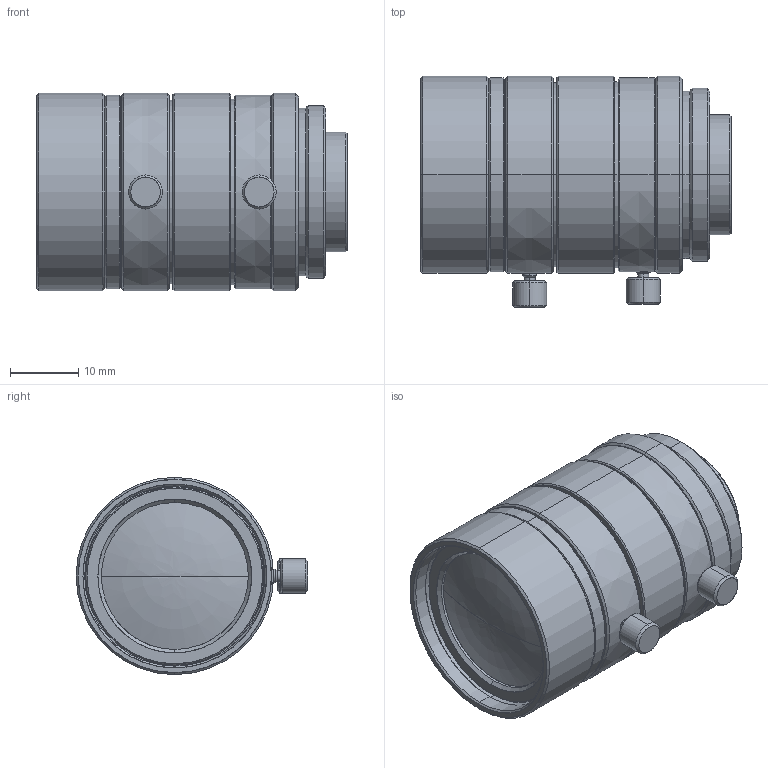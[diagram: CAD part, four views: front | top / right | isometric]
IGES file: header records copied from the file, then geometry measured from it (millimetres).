
Start section: SolidWorks IGES file using analytic representation for surfaces
Global section: file name: C:\Users\tsuji_vst\Documents\【図面】\_3D\00 VST\VS-VM\VS-0818VM.IGS; native system: SolidWorks 2016; preprocessor: SolidWorks 2016; author: tsuji_vst; date: 160510.090304; units: millimetre
Bounding box: 45.64 x 34.05 x 29 mm (x, y, z)
Surface area: 7233.5 mm2 (no closed solid volume)
Topology: 0 solids, 0 shells, 130 faces, 2108 edges, 2107 vertices
Faces by surface type: revolution 110, bspline 20
